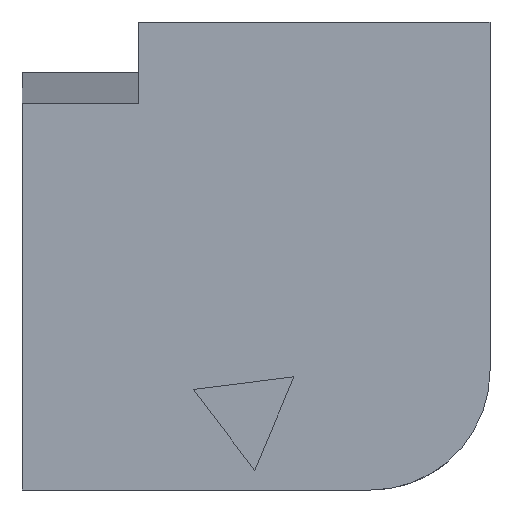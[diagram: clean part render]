
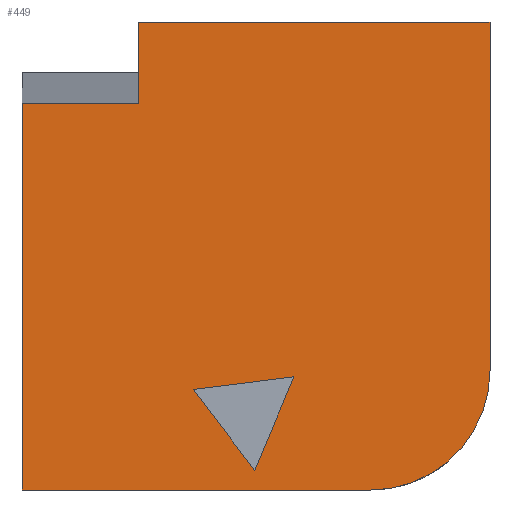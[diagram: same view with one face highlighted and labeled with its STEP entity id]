
A CAD part, left-side view. The second image highlights one B-rep face of the part: STEP entity #449.
In plain terms, the highlighted planar face has unit normal (-1, 0, 0).
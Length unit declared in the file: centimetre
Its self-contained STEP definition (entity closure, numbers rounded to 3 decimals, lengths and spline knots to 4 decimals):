
#1 = LINE ( 'NONE', #257, #484 ) ;
#11 = LINE ( 'NONE', #409, #812 ) ;
#40 = VERTEX_POINT ( 'NONE', #576 ) ;
#53 = VECTOR ( 'NONE', #495, 100. ) ;
#55 = EDGE_CURVE ( 'NONE', #640, #129, #1, .T. ) ;
#62 = ORIENTED_EDGE ( 'NONE', *, *, #421, .T. ) ;
#72 = EDGE_CURVE ( 'NONE', #701, #262, #212, .T. ) ;
#77 = DIRECTION ( 'NONE',  ( 0., 0., 1. ) ) ;
#86 = LINE ( 'NONE', #197, #116 ) ;
#90 = CARTESIAN_POINT ( 'NONE',  ( 0., 752.0191, 826.8259 ) ) ;
#91 = DIRECTION ( 'NONE',  ( 1., 0., 0. ) ) ;
#103 = ORIENTED_EDGE ( 'NONE', *, *, #821, .F. ) ;
#116 = VECTOR ( 'NONE', #77, 100. ) ;
#124 = VECTOR ( 'NONE', #726, 100. ) ;
#129 = VERTEX_POINT ( 'NONE', #485 ) ;
#131 = DIRECTION ( 'NONE',  ( 0., -1., 0. ) ) ;
#141 = VECTOR ( 'NONE', #784, 100. ) ;
#151 = ORIENTED_EDGE ( 'NONE', *, *, #580, .T. ) ;
#163 = AXIS2_PLACEMENT_3D ( 'NONE', #471, #341, #727 ) ;
#186 = EDGE_LOOP ( 'NONE', ( #473, #643, #817, #62, #151, #399, #658 ) ) ;
#197 = CARTESIAN_POINT ( 'NONE',  ( 0., 752.0191, 826.8259 ) ) ;
#202 = VERTEX_POINT ( 'NONE', #475 ) ;
#209 = FACE_OUTER_BOUND ( 'NONE', #186, .T. ) ;
#212 = LINE ( 'NONE', #470, #124 ) ;
#241 = CARTESIAN_POINT ( 'NONE',  ( 0., 633.831, 214.7704 ) ) ;
#244 = AXIS2_PLACEMENT_3D ( 'NONE', #336, #91, #455 ) ;
#257 = CARTESIAN_POINT ( 'NONE',  ( 0., 0., 1000. ) ) ;
#262 = VERTEX_POINT ( 'NONE', #241 ) ;
#266 = CIRCLE ( 'NONE', #163, 255.1952 ) ;
#294 = CARTESIAN_POINT ( 'NONE',  ( 0., 1000., 1000. ) ) ;
#317 = CARTESIAN_POINT ( 'NONE',  ( 0., 502.8419, 42.1111 ) ) ;
#320 = ORIENTED_EDGE ( 'NONE', *, *, #72, .F. ) ;
#336 = CARTESIAN_POINT ( 'NONE',  ( 0., 1000., 1000. ) ) ;
#341 = DIRECTION ( 'NONE',  ( -1., 0., 0. ) ) ;
#364 = LINE ( 'NONE', #294, #487 ) ;
#382 = ORIENTED_EDGE ( 'NONE', *, *, #627, .F. ) ;
#383 = LINE ( 'NONE', #317, #141 ) ;
#399 = ORIENTED_EDGE ( 'NONE', *, *, #55, .F. ) ;
#409 = CARTESIAN_POINT ( 'NONE',  ( 0., 1000., 0. ) ) ;
#414 = EDGE_CURVE ( 'NONE', #202, #785, #86, .T. ) ;
#421 = EDGE_CURVE ( 'NONE', #40, #710, #11, .T. ) ;
#425 = DIRECTION ( 'NONE',  ( 0., 0., -1. ) ) ;
#429 = CARTESIAN_POINT ( 'NONE',  ( 0., 633.831, 214.7704 ) ) ;
#432 = CARTESIAN_POINT ( 'NONE',  ( 0., 0., 1000. ) ) ;
#449 = ADVANCED_FACE ( 'NONE', ( #536, #209 ), #461, .F. ) ;
#455 = DIRECTION ( 'NONE',  ( 0., 0., -1. ) ) ;
#461 = PLANE ( 'NONE',  #244 ) ;
#464 = DIRECTION ( 'NONE',  ( 0., 0., -1. ) ) ;
#470 = CARTESIAN_POINT ( 'NONE',  ( 0., 418.8091, 241.8806 ) ) ;
#471 = CARTESIAN_POINT ( 'NONE',  ( 0., 255.1952, 255.1952 ) ) ;
#473 = ORIENTED_EDGE ( 'NONE', *, *, #414, .F. ) ;
#475 = CARTESIAN_POINT ( 'NONE',  ( 0., 752.0191, 826.8259 ) ) ;
#484 = VECTOR ( 'NONE', #464, 100. ) ;
#485 = CARTESIAN_POINT ( 'NONE',  ( 0., 0., 255.1952 ) ) ;
#487 = VECTOR ( 'NONE', #425, 100. ) ;
#495 = DIRECTION ( 'NONE',  ( 0., -0.604, -0.797 ) ) ;
#498 = EDGE_CURVE ( 'NONE', #785, #640, #569, .T. ) ;
#500 = LINE ( 'NONE', #429, #53 ) ;
#515 = EDGE_CURVE ( 'NONE', #202, #722, #663, .T. ) ;
#522 = DIRECTION ( 'NONE',  ( 0., -1., 0. ) ) ;
#526 = EDGE_LOOP ( 'NONE', ( #320, #103, #382 ) ) ;
#536 = FACE_BOUND ( 'NONE', #526, .T. ) ;
#548 = CARTESIAN_POINT ( 'NONE',  ( 0., 255.1952, 0. ) ) ;
#566 = VECTOR ( 'NONE', #736, 100. ) ;
#569 = LINE ( 'NONE', #700, #660 ) ;
#576 = CARTESIAN_POINT ( 'NONE',  ( 0., 1000., 0. ) ) ;
#580 = EDGE_CURVE ( 'NONE', #710, #129, #266, .T. ) ;
#587 = VERTEX_POINT ( 'NONE', #599 ) ;
#599 = CARTESIAN_POINT ( 'NONE',  ( 0., 502.8419, 42.1111 ) ) ;
#627 = EDGE_CURVE ( 'NONE', #262, #587, #500, .T. ) ;
#640 = VERTEX_POINT ( 'NONE', #432 ) ;
#643 = ORIENTED_EDGE ( 'NONE', *, *, #515, .T. ) ;
#658 = ORIENTED_EDGE ( 'NONE', *, *, #498, .F. ) ;
#660 = VECTOR ( 'NONE', #522, 100. ) ;
#663 = LINE ( 'NONE', #90, #566 ) ;
#680 = EDGE_CURVE ( 'NONE', #722, #40, #364, .T. ) ;
#700 = CARTESIAN_POINT ( 'NONE',  ( 0., 1000., 1000. ) ) ;
#701 = VERTEX_POINT ( 'NONE', #752 ) ;
#710 = VERTEX_POINT ( 'NONE', #548 ) ;
#714 = CARTESIAN_POINT ( 'NONE',  ( 0., 752.0191, 1000. ) ) ;
#722 = VERTEX_POINT ( 'NONE', #764 ) ;
#726 = DIRECTION ( 'NONE',  ( 0., 0.992, -0.125 ) ) ;
#727 = DIRECTION ( 'NONE',  ( 0., 0., -1. ) ) ;
#736 = DIRECTION ( 'NONE',  ( 0., 1., 0. ) ) ;
#752 = CARTESIAN_POINT ( 'NONE',  ( 0., 418.8091, 241.8806 ) ) ;
#764 = CARTESIAN_POINT ( 'NONE',  ( 0., 1000., 826.8259 ) ) ;
#784 = DIRECTION ( 'NONE',  ( 0., -0.388, 0.922 ) ) ;
#785 = VERTEX_POINT ( 'NONE', #714 ) ;
#812 = VECTOR ( 'NONE', #131, 100. ) ;
#817 = ORIENTED_EDGE ( 'NONE', *, *, #680, .T. ) ;
#821 = EDGE_CURVE ( 'NONE', #587, #701, #383, .T. ) ;
